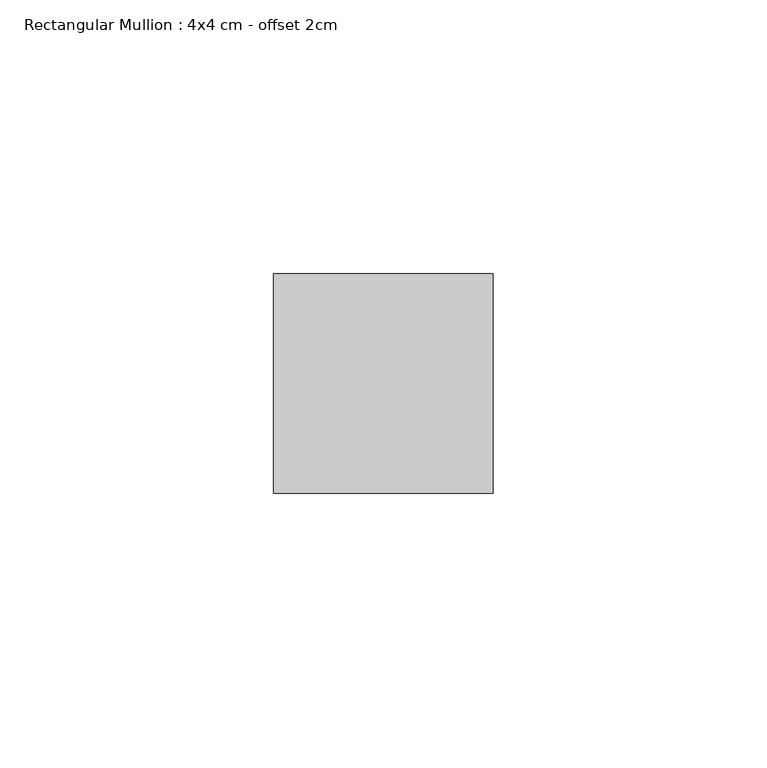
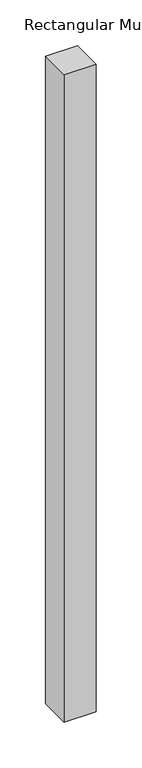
"""IFC4 building model written with IfcOpenShell, lengths in millimetres: member geometry, Rectangular Mullion : 4x4 cm - offset 2cm."""

from ifc_helpers import new_model, si_unit, frame, origin, place, context, project, spatial, polyline, outline, extrude, source, transform, mapped, element, save


def rectangular_mullion_4x4_cm_offset_2cm_c138487f(model_context):
    return source(origin(), model_context, "Body", "SweptSolid", [
        extrude(outline(polyline([(0.0, 40.0), (0.0, 0.0), (-40.0, 0.0), (-40.0, 40.0), (0.0, 40.0)])), frame((0.0, 0.0, -860.0), z_axis=(0.0, 0.0, 1.0), x_axis=(1.0, 0.0, 0.0)), (0.0, 0.0, 1.0), 860.0),
    ])


if __name__ == "__main__":
    model = new_model("IFC4")
    model_context = context("Model", 3, world=origin())
    ifc_project = project(units=[si_unit("LENGTHUNIT", "METRE", prefix="MILLI")], contexts=[model_context])
    site = spatial("IfcSite", under=ifc_project)
    building = spatial("IfcBuilding", under=site)
    placement = place(None, origin())
    rectangular_mullion_4x4_cm_offset_2cm_shape = rectangular_mullion_4x4_cm_offset_2cm_c138487f(model_context)
    element("IfcMember", 1, ObjectType="Rectangular Mullion : 4x4 cm - offset 2cm", at=placement, inside=building, context=model_context, shape_type="MappedRepresentation", body=[
        mapped(rectangular_mullion_4x4_cm_offset_2cm_shape, transform((0.0, 0.0, 0.0), x_axis=(1.0, 0.0, 0.0), y_axis=(0.0, 1.0, 0.0), z_axis=(0.0, 0.0, 1.0))),
    ])
    save(model, "model.ifc")
